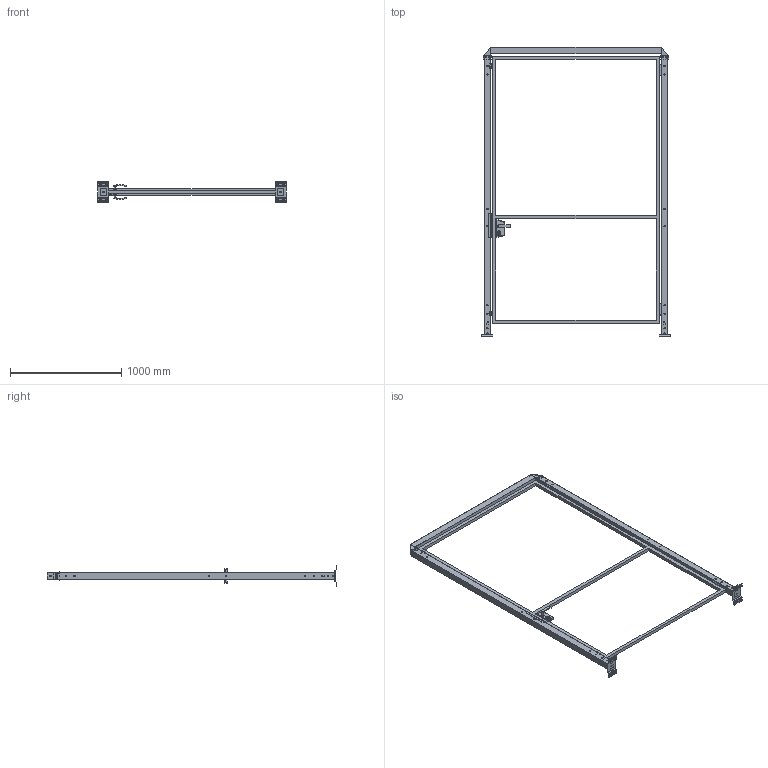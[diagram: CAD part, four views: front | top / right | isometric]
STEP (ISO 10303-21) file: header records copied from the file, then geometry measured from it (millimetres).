
FILE_DESCRIPTION(('STEP AP242'),'1');
FILE_NAME('vfda_bscgd03_15002520.stp','2025-01-31T11:29:57',('TraceParts'),('TraceParts S.A.'),'Spatial InterOp 3D',' ',' ');
FILE_SCHEMA(('AP242_MANAGED_MODEL_BASED_3D_ENGINEERING_MIM_LF {1 0 10303 442 1 1 4}'));
Length unit declared in the file: millimetre
Products named in the file (1): vfda_bscgd03_15002520_1
Bounding box: 1690 x 2601 x 192 mm (x, y, z)
Volume: 11346188.3 mm3; surface area: 4467025 mm2
Topology: 13 solids, 13 shells, 1629 faces, 4331 edges, 2766 vertices
Faces by surface type: plane 807, cylinder 554, bspline 194, cone 46, torus 28
Entity records: 67608 total; most frequent: CARTESIAN_POINT 14334, ORIENTED_EDGE 8662, DIRECTION 7987, EDGE_CURVE 4331, VERTEX_POINT 2766, AXIS2_PLACEMENT_3D 2674, LINE 2639, VECTOR 2639
